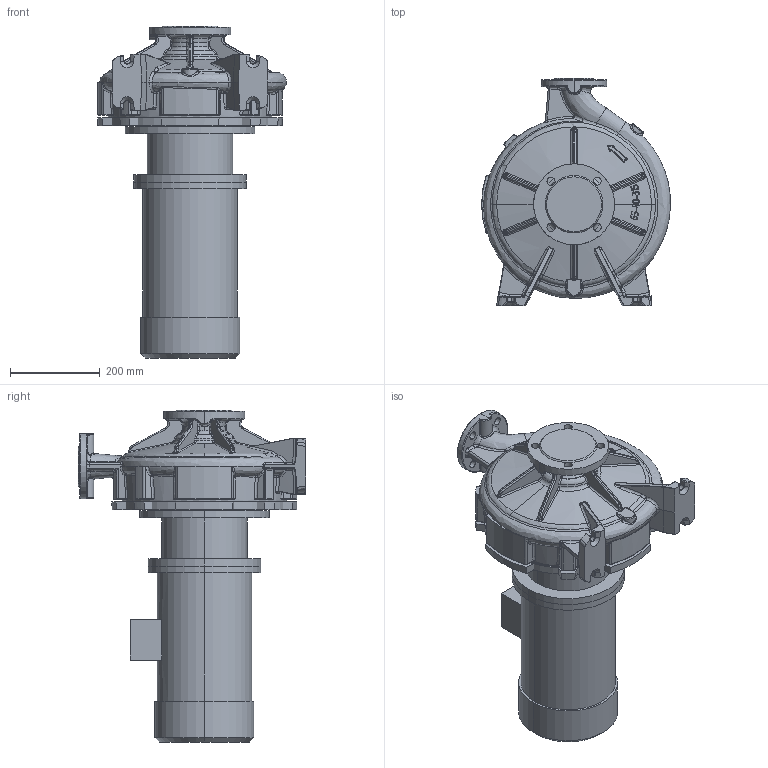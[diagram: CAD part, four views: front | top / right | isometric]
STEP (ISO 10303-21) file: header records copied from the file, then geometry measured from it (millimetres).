
FILE_DESCRIPTION (( 'STEP AP214' ), '1' );
FILE_NAME ('KRM 65-40-315-4-4.STEP', '2026-04-23T13:17:21', ( '' ), ( '' ), 'SwSTEP 2.0', 'SolidWorks 2016', '' );
FILE_SCHEMA (( 'AUTOMOTIVE_DESIGN' ));
Length unit declared in the file: millimetre
Products named in the file (1): KRM 65-40-315-4-4
Bounding box: 419.75 x 505 x 737.8 mm (x, y, z)
Volume: 38955158 mm3; surface area: 1631876.9 mm2
Topology: 12 solids, 12 shells, 1488 faces, 3702 edges, 2199 vertices
Faces by surface type: bspline 628, cylinder 319, plane 277, torus 147, cone 85, sphere 32
Entity records: 107991 total; most frequent: CARTESIAN_POINT 61267, ORIENTED_EDGE 7264, DIRECTION 5063, EDGE_CURVE 3632, VERTEX_POINT 2195, AXIS2_PLACEMENT_3D 2082, EDGE_LOOP 1531, UNCERTAINTY_MEASURE_WITH_UNIT 1502
